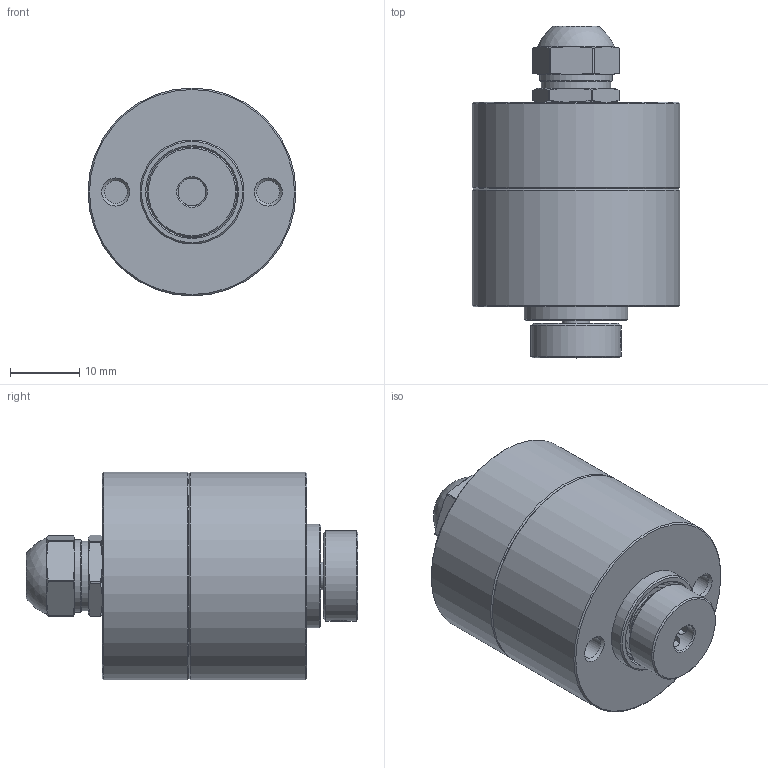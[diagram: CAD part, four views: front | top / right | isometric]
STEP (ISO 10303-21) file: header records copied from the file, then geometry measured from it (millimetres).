
FILE_DESCRIPTION (( 'STEP AP214' ), '1' );
FILE_NAME ('27-P7xx0.STEP', '2020-12-22T10:02:59', ( '' ), ( '' ), 'SwSTEP 2.0', 'SolidWorks 2019', '' );
FILE_SCHEMA (( 'AUTOMOTIVE_DESIGN' ));
Length unit declared in the file: millimetre
Products named in the file (1): 27-P7xx0
Bounding box: 30 x 47.9 x 30 mm (x, y, z)
Surface area: 5960 mm2 (no closed solid volume)
Topology: 0 solids, 15 shells, 95 faces, 241 edges, 160 vertices
Faces by surface type: plane 35, cylinder 26, cone 18, sphere 13, torus 3
Full cylindrical faces by diameter (mm): 2.5 x2, 3.3 x2, 4 x1, 6 x1, 7.9 x1, 10 x1, 10.5 x1, 13 x2, 15 x1, 30 x2
Entity records: 3815 total; most frequent: CARTESIAN_POINT 670, DIRECTION 463, ORIENTED_EDGE 316, AXIS2_PLACEMENT_3D 203, EDGE_CURVE 192, EDGE_LOOP 149, VERTEX_POINT 148, FACE_OUTER_BOUND 113
